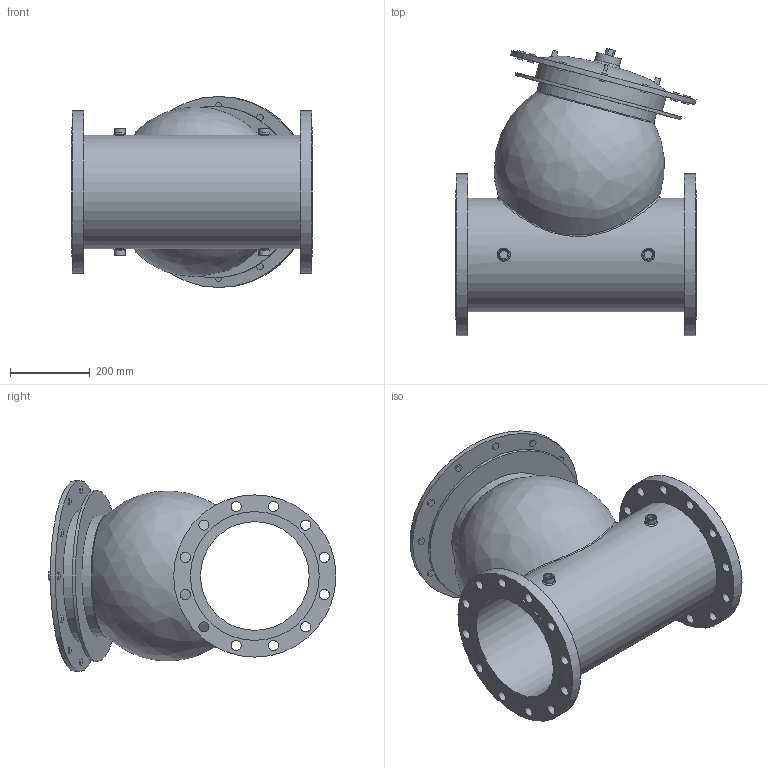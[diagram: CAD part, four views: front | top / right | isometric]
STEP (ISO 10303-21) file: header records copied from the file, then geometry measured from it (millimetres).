
FILE_DESCRIPTION(/* description */ ('VIC FP VALVE PRESSURE RELIEF SERIES 867-7UF (FLG 150)','CAx-IF Rec.Pracs.---Representation and Presentation of Product Manufacturing Information (PMI)---4.0---2014-10-13'),/* implementation_level */ '2;1');
FILE_NAME(/* name */ 'C:\Series 867-7UF\New folder (2)\step\Victaulic_FP-Bermad_Valve Pressure Relief_Series 867-7UF (FLG 150)\Victaulic_FP-Bermad_Valve Pressure Relief_Series 867-7UF (FLG 150)_10 (250).stp',/* time_stamp */ '2021-09-02T12:09:25+06:00',/* author */ ('kkamble'),/* organization */ ('Victaulic'),/* preprocessor_version */ 'ST-DEVELOPER v17.2',/* originating_system */ 'Autodesk Inventor 2019',/* authorisation */ '');
FILE_SCHEMA (('AP242_MANAGED_MODEL_BASED_3D_ENGINEERING_MIM_LF { 1 0 10303 442 1 1 4 }'));
Length unit declared in the file: inch
Products named in the file (1): 867-7UF-10.0
Bounding box: 605.03 x 723.89 x 480.06 mm (x, y, z)
Volume: 49749707.8 mm3; surface area: 2195246.8 mm2
Topology: 1 solids, 1 shells, 266 faces, 680 edges, 461 vertices
Faces by surface type: plane 214, cylinder 43, bspline 7, torus 2
Full cylindrical faces by diameter (mm): 21.336 x4, 25.4 x24, 26.873 x4, 63.5 x1, 273.05 x1, 285.75 x1, 304.8 x1, 323.85 x2, 330.2 x1, 407.924 x2, 431.8 x1, 480.06 x1
Entity records: 9414 total; most frequent: CARTESIAN_POINT 2375, ORIENTED_EDGE 1368, DIRECTION 1313, EDGE_CURVE 684, LINE 529, VECTOR 529, VERTEX_POINT 465, AXIS2_PLACEMENT_3D 392
